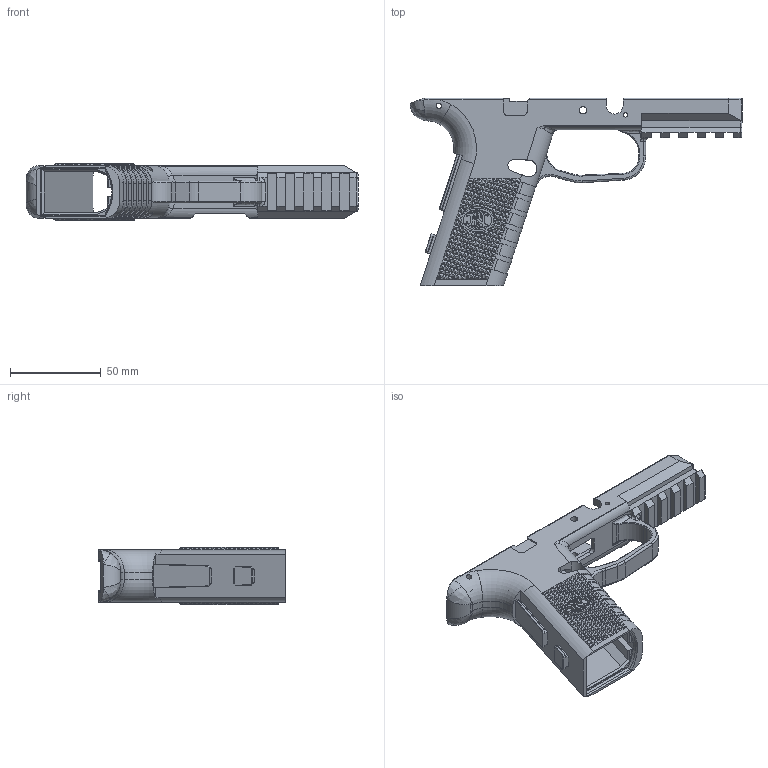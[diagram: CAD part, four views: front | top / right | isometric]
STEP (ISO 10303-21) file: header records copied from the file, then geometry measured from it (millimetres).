
FILE_DESCRIPTION(/* description */ (''),/* implementation_level */ '2;1');
FILE_NAME(/* name */ 'C:/Users/Bob/Desktop/FNS-940_Texture_3 v2.step',/* time_stamp */ '2021-06-04T19:54:16-07:00',/* author */ (''),/* organization */ (''),/* preprocessor_version */ 'ST-DEVELOPER v18.1',/* originating_system */ 'Autodesk Translation Framework v10.9.0.1377',/* authorisation */ '');
FILE_SCHEMA (('AUTOMOTIVE_DESIGN { 1 0 10303 214 3 1 1 }'));
Products named in the file (5): FNS-940_Texture_3; Main Frame; Compact Size Grip; Standard Size Grip; Standard Size Grip (Stopgap)
Assembly tree (4 placements, depth 2):
  FNS-940_Texture_3
    Main Frame
    Compact Size Grip
    Standard Size Grip
    Standard Size Grip (Stopgap)
Bounding box: 183.1 x 103.6 x 31.54 mm (x, y, z)
Volume: 80992.2 mm3; surface area: 48089.7 mm2
Topology: 1 solids, 1 shells, 2955 faces, 6405 edges, 3457 vertices
Faces by surface type: plane 2629, cylinder 150, bspline 143, torus 27, cone 6
Full cylindrical faces by diameter (mm): 0.612 x2, 2.5 x2, 3 x2, 4.1 x2
Entity records: 91743 total; most frequent: CARTESIAN_POINT 29982, ORIENTED_EDGE 12806, DIRECTION 11966, EDGE_CURVE 6403, LINE 5542, VECTOR 5542, VERTEX_POINT 3457, AXIS2_PLACEMENT_3D 3212
